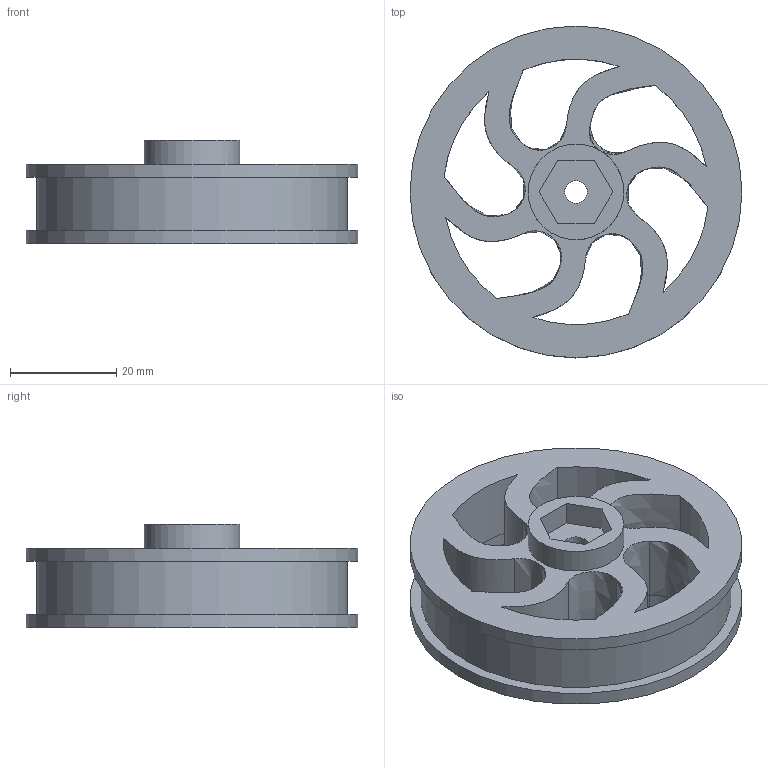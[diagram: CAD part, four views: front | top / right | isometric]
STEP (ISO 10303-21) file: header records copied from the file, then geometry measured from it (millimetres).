
FILE_DESCRIPTION(/* description */ (''),/* implementation_level */ '2;1');
FILE_NAME(/* name */ 'kolo-robota.step',/* time_stamp */ '2025-12-15T15:40:37+01:00',/* author */ (''),/* organization */ (''),/* preprocessor_version */ 'ST-DEVELOPER v20.1',/* originating_system */ 'Autodesk Translation Framework v14.21.0.0',/* authorisation */ '');
FILE_SCHEMA (('AUTOMOTIVE_DESIGN { 1 0 10303 214 3 1 1 }'));
Length unit declared in the file: millimetre
Products named in the file (1): kolo-robota
Bounding box: 62.5 x 62.5 x 19.5 mm (x, y, z)
Volume: 21064.5 mm3; surface area: 20700.3 mm2
Topology: 2 solids, 2 shells, 151 faces, 405 edges, 258 vertices
Faces by surface type: bspline 59, cylinder 47, plane 45
Full cylindrical faces by diameter (mm): 4.3 x2, 9 x1, 18 x1, 58.5 x1, 62.5 x2
Entity records: 8449 total; most frequent: CARTESIAN_POINT 5046, ORIENTED_EDGE 810, DIRECTION 539, EDGE_CURVE 405, VERTEX_POINT 258, AXIS2_PLACEMENT_3D 193, EDGE_LOOP 185, LINE 153
